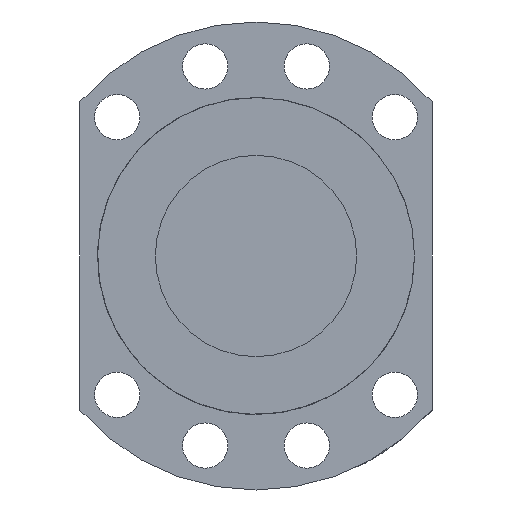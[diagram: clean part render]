
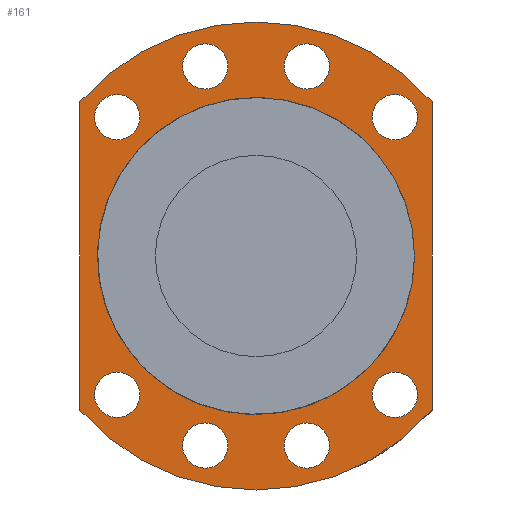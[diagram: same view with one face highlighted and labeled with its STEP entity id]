
A CAD part, front view. The second image highlights one B-rep face of the part: STEP entity #161.
In plain terms, the highlighted planar face has unit normal (0, -1, 0).
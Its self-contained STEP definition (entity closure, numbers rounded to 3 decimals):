
#104=LINE('',#914,#114);
#108=LINE('',#985,#118);
#114=VECTOR('',#719,1.);
#118=VECTOR('',#731,1.);
#141=PLANE('',#641);
#161=ADVANCED_FACE('',(#232,#233,#234,#235,#236,#237,#238,#239,#240,#241),
#141,.F.);
#232=FACE_BOUND('',#307,.T.);
#233=FACE_BOUND('',#308,.T.);
#234=FACE_BOUND('',#309,.T.);
#235=FACE_BOUND('',#310,.T.);
#236=FACE_BOUND('',#311,.T.);
#237=FACE_BOUND('',#312,.T.);
#238=FACE_BOUND('',#313,.T.);
#239=FACE_BOUND('',#314,.T.);
#240=FACE_BOUND('',#315,.T.);
#241=FACE_BOUND('',#316,.T.);
#307=EDGE_LOOP('',(#401));
#308=EDGE_LOOP('',(#402));
#309=EDGE_LOOP('',(#403));
#310=EDGE_LOOP('',(#404));
#311=EDGE_LOOP('',(#405));
#312=EDGE_LOOP('',(#406));
#313=EDGE_LOOP('',(#407));
#314=EDGE_LOOP('',(#408));
#315=EDGE_LOOP('',(#409));
#316=EDGE_LOOP('',(#410,#411,#412,#413));
#401=ORIENTED_EDGE('',*,*,#535,.F.);
#402=ORIENTED_EDGE('',*,*,#536,.F.);
#403=ORIENTED_EDGE('',*,*,#537,.F.);
#404=ORIENTED_EDGE('',*,*,#538,.F.);
#405=ORIENTED_EDGE('',*,*,#539,.T.);
#406=ORIENTED_EDGE('',*,*,#540,.T.);
#407=ORIENTED_EDGE('',*,*,#541,.T.);
#408=ORIENTED_EDGE('',*,*,#542,.T.);
#409=ORIENTED_EDGE('',*,*,#543,.T.);
#410=ORIENTED_EDGE('',*,*,#513,.F.);
#411=ORIENTED_EDGE('',*,*,#524,.F.);
#412=ORIENTED_EDGE('',*,*,#521,.F.);
#413=ORIENTED_EDGE('',*,*,#517,.F.);
#467=VERTEX_POINT('',#906);
#468=VERTEX_POINT('',#907);
#471=VERTEX_POINT('',#915);
#474=VERTEX_POINT('',#980);
#485=VERTEX_POINT('',#1008);
#486=VERTEX_POINT('',#1010);
#487=VERTEX_POINT('',#1012);
#488=VERTEX_POINT('',#1014);
#489=VERTEX_POINT('',#1016);
#490=VERTEX_POINT('',#1018);
#491=VERTEX_POINT('',#1020);
#492=VERTEX_POINT('',#1022);
#493=VERTEX_POINT('',#1024);
#513=EDGE_CURVE('',#467,#468,#564,.T.);
#517=EDGE_CURVE('',#468,#471,#104,.T.);
#521=EDGE_CURVE('',#471,#474,#566,.T.);
#524=EDGE_CURVE('',#474,#467,#108,.T.);
#535=EDGE_CURVE('',#485,#485,#577,.T.);
#536=EDGE_CURVE('',#486,#486,#578,.T.);
#537=EDGE_CURVE('',#487,#487,#579,.T.);
#538=EDGE_CURVE('',#488,#488,#580,.T.);
#539=EDGE_CURVE('',#489,#489,#581,.T.);
#540=EDGE_CURVE('',#490,#490,#582,.T.);
#541=EDGE_CURVE('',#491,#491,#583,.T.);
#542=EDGE_CURVE('',#492,#492,#584,.T.);
#543=EDGE_CURVE('',#493,#493,#585,.T.);
#564=CIRCLE('',#614,46.5);
#566=CIRCLE('',#618,46.5);
#577=CIRCLE('',#632,4.5);
#578=CIRCLE('',#633,4.5);
#579=CIRCLE('',#634,4.5);
#580=CIRCLE('',#635,4.5);
#581=CIRCLE('',#636,4.5);
#582=CIRCLE('',#637,4.5);
#583=CIRCLE('',#638,4.5);
#584=CIRCLE('',#639,4.5);
#585=CIRCLE('',#640,31.5);
#614=AXIS2_PLACEMENT_3D('',#905,#711,#712);
#618=AXIS2_PLACEMENT_3D('',#979,#724,#725);
#632=AXIS2_PLACEMENT_3D('',#1007,#755,#756);
#633=AXIS2_PLACEMENT_3D('',#1009,#757,#758);
#634=AXIS2_PLACEMENT_3D('',#1011,#759,#760);
#635=AXIS2_PLACEMENT_3D('',#1013,#761,#762);
#636=AXIS2_PLACEMENT_3D('',#1015,#763,#764);
#637=AXIS2_PLACEMENT_3D('',#1017,#765,#766);
#638=AXIS2_PLACEMENT_3D('',#1019,#767,#768);
#639=AXIS2_PLACEMENT_3D('',#1021,#769,#770);
#640=AXIS2_PLACEMENT_3D('',#1023,#771,#772);
#641=AXIS2_PLACEMENT_3D('',#1025,#773,#774);
#711=DIRECTION('',(0.,1.,0.));
#712=DIRECTION('',(1.,0.,0.));
#719=DIRECTION('',(0.,0.,-1.));
#724=DIRECTION('',(0.,1.,0.));
#725=DIRECTION('',(1.,0.,0.));
#731=DIRECTION('',(0.,0.,1.));
#755=DIRECTION('',(0.,-1.,0.));
#756=DIRECTION('',(-1.,0.,0.));
#757=DIRECTION('',(0.,-1.,0.));
#758=DIRECTION('',(-0.866,0.,-0.5));
#759=DIRECTION('',(0.,-1.,0.));
#760=DIRECTION('',(-0.5,0.,-0.866));
#761=DIRECTION('',(0.,-1.,0.));
#762=DIRECTION('',(0.,0.,-1.));
#763=DIRECTION('',(0.,1.,0.));
#764=DIRECTION('',(-1.,0.,0.));
#765=DIRECTION('',(0.,1.,0.));
#766=DIRECTION('',(-0.866,0.,0.5));
#767=DIRECTION('',(0.,1.,0.));
#768=DIRECTION('',(-0.5,0.,0.866));
#769=DIRECTION('',(0.,1.,0.));
#770=DIRECTION('',(0.,0.,1.));
#771=DIRECTION('',(0.,1.,0.));
#772=DIRECTION('',(1.,0.,0.));
#773=DIRECTION('',(0.,1.,0.));
#774=DIRECTION('',(0.,0.,1.));
#905=CARTESIAN_POINT('',(0.,-27.5,0.));
#906=CARTESIAN_POINT('',(-35.,-27.5,30.615));
#907=CARTESIAN_POINT('',(35.,-27.5,30.615));
#914=CARTESIAN_POINT('',(35.,-27.5,30.615));
#915=CARTESIAN_POINT('',(35.,-27.5,-30.615));
#979=CARTESIAN_POINT('',(0.,-27.5,0.));
#980=CARTESIAN_POINT('',(-35.,-27.5,-30.615));
#985=CARTESIAN_POINT('',(-35.,-27.5,-30.615));
#1007=CARTESIAN_POINT('',(27.577,-27.5,27.577));
#1008=CARTESIAN_POINT('',(23.077,-27.5,27.577));
#1009=CARTESIAN_POINT('',(10.094,-27.5,37.671));
#1010=CARTESIAN_POINT('',(6.197,-27.5,35.421));
#1011=CARTESIAN_POINT('',(-10.094,-27.5,37.671));
#1012=CARTESIAN_POINT('',(-12.344,-27.5,33.774));
#1013=CARTESIAN_POINT('',(-27.577,-27.5,27.577));
#1014=CARTESIAN_POINT('',(-27.577,-27.5,23.077));
#1015=CARTESIAN_POINT('',(27.577,-27.5,-27.577));
#1016=CARTESIAN_POINT('',(23.077,-27.5,-27.577));
#1017=CARTESIAN_POINT('',(10.094,-27.5,-37.671));
#1018=CARTESIAN_POINT('',(6.197,-27.5,-35.421));
#1019=CARTESIAN_POINT('',(-10.094,-27.5,-37.671));
#1020=CARTESIAN_POINT('',(-12.344,-27.5,-33.774));
#1021=CARTESIAN_POINT('',(-27.577,-27.5,-27.577));
#1022=CARTESIAN_POINT('',(-27.577,-27.5,-23.077));
#1023=CARTESIAN_POINT('',(0.,-27.5,0.));
#1024=CARTESIAN_POINT('',(31.5,-27.5,0.));
#1025=CARTESIAN_POINT('',(0.,-27.5,0.));
